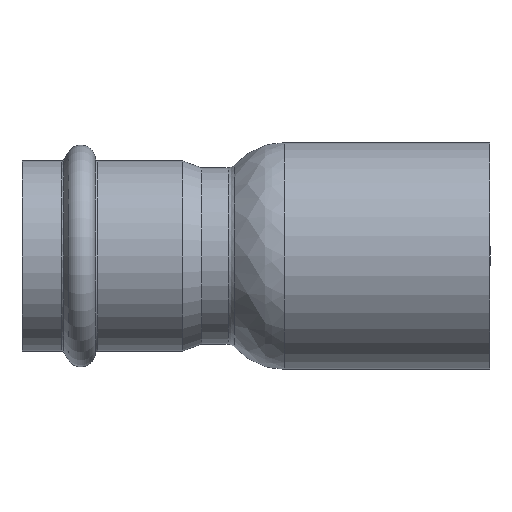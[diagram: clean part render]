
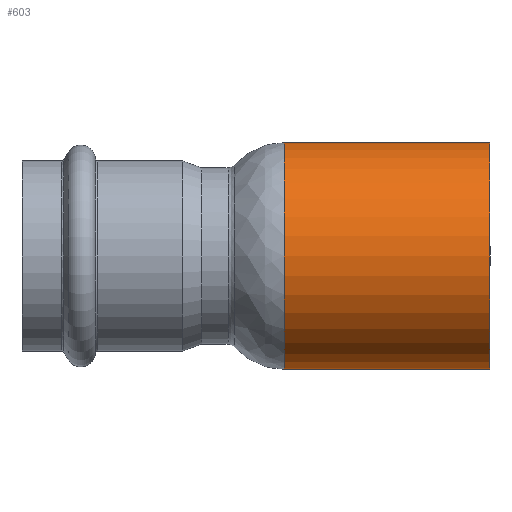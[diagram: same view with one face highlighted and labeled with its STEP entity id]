
A CAD part, front view. The second image highlights one B-rep face of the part: STEP entity #603.
In plain terms, the highlighted cylindrical face has radius 27 mm (diameter 54 mm), a full revolution.
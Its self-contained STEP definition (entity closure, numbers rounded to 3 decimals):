
#569=CARTESIAN_POINT('',(9.5,27.0,0.0));
#570=VERTEX_POINT('',#569);
#571=CARTESIAN_POINT('',(9.5,0.,0.0));
#572=DIRECTION('',(1.0,0.0,0.0));
#573=DIRECTION('',(0.0,1.0,0.0));
#574=AXIS2_PLACEMENT_3D('',#571,#572,#573);
#575=CIRCLE('',#574,27.);
#576=EDGE_CURVE('',#570,#570,#575,.T.);
#584=CARTESIAN_POINT('',(34.,0.,0.0));
#585=DIRECTION('',(1.0,0.,0.0));
#586=DIRECTION('',(0.0,1.0,0.0));
#587=AXIS2_PLACEMENT_3D('',#584,#585,#586);
#588=CYLINDRICAL_SURFACE('',#587,27.0);
#589=CARTESIAN_POINT('',(58.5,27.,0.0));
#590=VERTEX_POINT('',#589);
#591=CARTESIAN_POINT('',(58.5,0.,0.0));
#592=DIRECTION('',(1.0,0.0,0.0));
#593=DIRECTION('',(0.0,1.0,0.0));
#594=AXIS2_PLACEMENT_3D('',#591,#592,#593);
#595=CIRCLE('',#594,27.0);
#596=EDGE_CURVE('',#590,#590,#595,.T.);
#597=ORIENTED_EDGE('',*,*,#596,.F.);
#598=EDGE_LOOP('',(#597));
#599=FACE_OUTER_BOUND('',#598,.T.);
#600=ORIENTED_EDGE('',*,*,#576,.T.);
#601=EDGE_LOOP('',(#600));
#602=FACE_BOUND('',#601,.T.);
#603=ADVANCED_FACE('',(#599,#602),#588,.T.);
